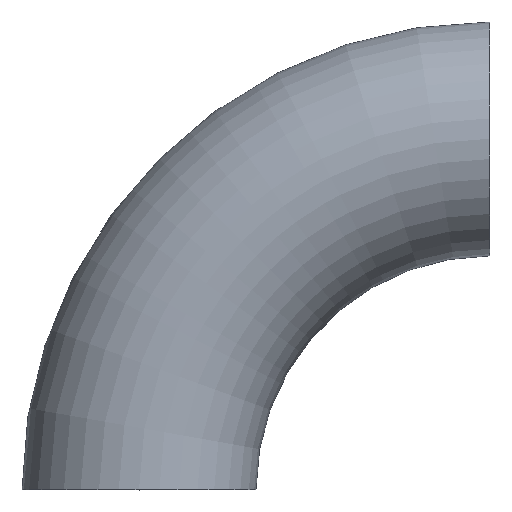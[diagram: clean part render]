
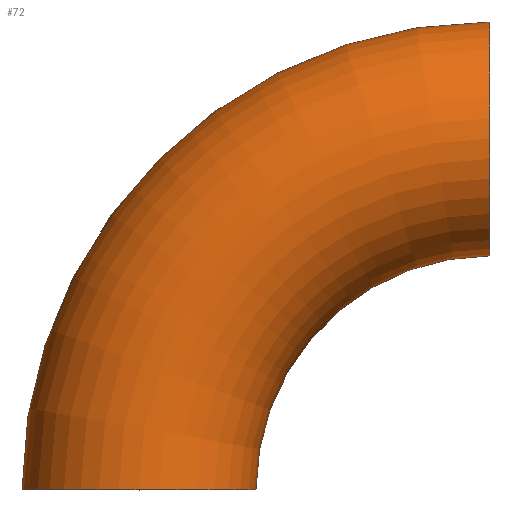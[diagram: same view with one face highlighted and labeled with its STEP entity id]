
A CAD part, top view. The second image highlights one B-rep face of the part: STEP entity #72.
In plain terms, the highlighted toroidal (fillet/blend) face has major radius 19.05 mm and minor radius 6.35 mm.
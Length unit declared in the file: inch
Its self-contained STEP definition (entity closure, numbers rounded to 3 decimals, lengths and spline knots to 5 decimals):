
#3 = VERTEX_POINT ( 'NONE', #221 ) ;
#10 = DIRECTION ( 'NONE',  ( 0., 0., 1. ) ) ;
#18 = ORIENTED_EDGE ( 'NONE', *, *, #77, .T. ) ;
#20 = CARTESIAN_POINT ( 'NONE',  ( -1., 0., 0. ) ) ;
#28 = ORIENTED_EDGE ( 'NONE', *, *, #110, .F. ) ;
#29 = AXIS2_PLACEMENT_3D ( 'NONE', #119, #160, #52 ) ;
#31 = DIRECTION ( 'NONE',  ( 1., 0., 0. ) ) ;
#35 = VERTEX_POINT ( 'NONE', #20 ) ;
#37 = CARTESIAN_POINT ( 'NONE',  ( -0.75, 0., 0. ) ) ;
#52 = DIRECTION ( 'NONE',  ( 1., 0., 0. ) ) ;
#53 = EDGE_CURVE ( 'NONE', #161, #35, #62, .T. ) ;
#56 = AXIS2_PLACEMENT_3D ( 'NONE', #101, #226, #116 ) ;
#60 = DIRECTION ( 'NONE',  ( 0., 0., 1. ) ) ;
#62 = CIRCLE ( 'NONE', #156, 1. ) ;
#67 = VERTEX_POINT ( 'NONE', #108 ) ;
#72 = ADVANCED_FACE ( 'NONE', ( #143 ), #219, .T. ) ;
#77 = EDGE_CURVE ( 'NONE', #35, #3, #250, .T. ) ;
#88 = ORIENTED_EDGE ( 'NONE', *, *, #181, .F. ) ;
#95 = DIRECTION ( 'NONE',  ( 0., 0., 1. ) ) ;
#101 = CARTESIAN_POINT ( 'NONE',  ( 0., 0.75, 0. ) ) ;
#108 = CARTESIAN_POINT ( 'NONE',  ( 0., 0.5, 0. ) ) ;
#110 = EDGE_CURVE ( 'NONE', #161, #67, #254, .T. ) ;
#116 = DIRECTION ( 'NONE',  ( 0., 0., 1. ) ) ;
#119 = CARTESIAN_POINT ( 'NONE',  ( 0., 0., 0. ) ) ;
#127 = CARTESIAN_POINT ( 'NONE',  ( 0., 0., 0. ) ) ;
#137 = CARTESIAN_POINT ( 'NONE',  ( 0., 0., 0. ) ) ;
#143 = FACE_OUTER_BOUND ( 'NONE', #196, .T. ) ;
#144 = DIRECTION ( 'NONE',  ( 1., 0., 0. ) ) ;
#147 = ORIENTED_EDGE ( 'NONE', *, *, #53, .T. ) ;
#156 = AXIS2_PLACEMENT_3D ( 'NONE', #137, #95, #31 ) ;
#160 = DIRECTION ( 'NONE',  ( 0., 0., 1. ) ) ;
#161 = VERTEX_POINT ( 'NONE', #201 ) ;
#164 = DIRECTION ( 'NONE',  ( 0., 1., 0. ) ) ;
#181 = EDGE_CURVE ( 'NONE', #67, #3, #232, .T. ) ;
#196 = EDGE_LOOP ( 'NONE', ( #28, #147, #18, #88 ) ) ;
#201 = CARTESIAN_POINT ( 'NONE',  ( 0., 1., 0. ) ) ;
#211 = AXIS2_PLACEMENT_3D ( 'NONE', #37, #164, #60 ) ;
#219 = TOROIDAL_SURFACE ( 'NONE', #29, 0.75, 0.25 ) ;
#221 = CARTESIAN_POINT ( 'NONE',  ( -0.5, 0., 0. ) ) ;
#226 = DIRECTION ( 'NONE',  ( 1., 0., 0. ) ) ;
#232 = CIRCLE ( 'NONE', #247, 0.5 ) ;
#247 = AXIS2_PLACEMENT_3D ( 'NONE', #127, #10, #144 ) ;
#250 = CIRCLE ( 'NONE', #211, 0.25 ) ;
#254 = CIRCLE ( 'NONE', #56, 0.25 ) ;
